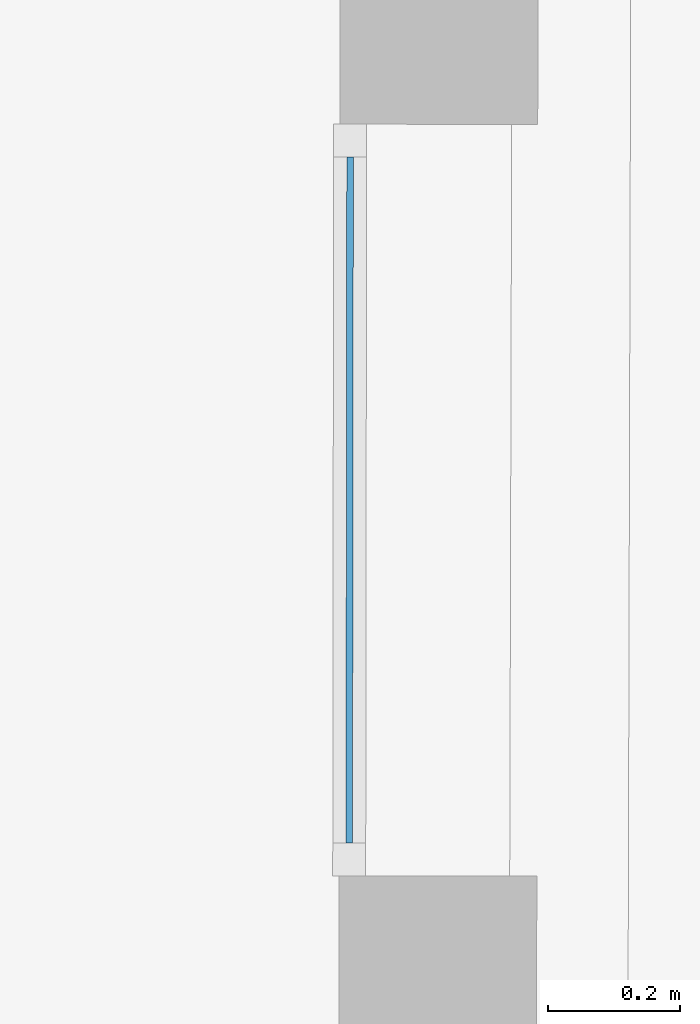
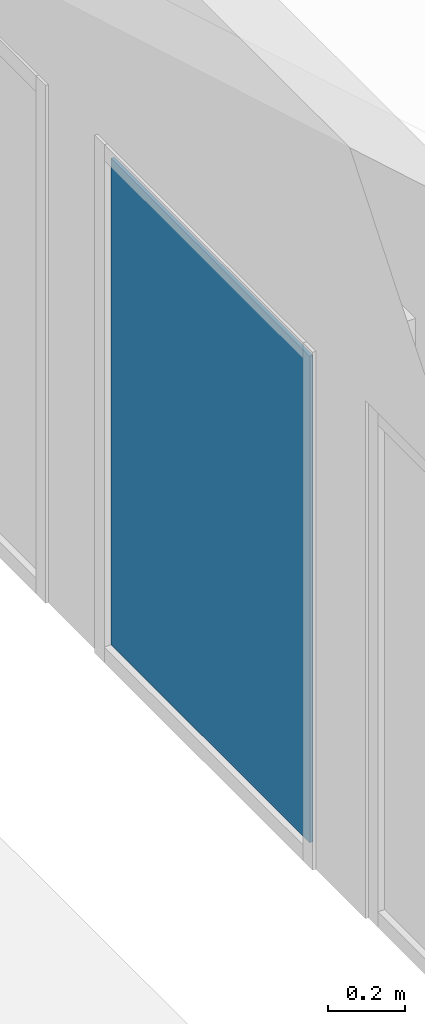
# One storey, part 19 of 26: 1 plate, 1 element without a shape of its own.
"""IFC2X3 building model written with IfcOpenShell, lengths in metres."""

from ifc_helpers import new_model, entity, si_unit, converted_unit, derived_unit, direction, frame, frame_2d, origin, place, context, subcontext, project, spatial, rectangle, extrude, source, transform, mapped, material, layer, layer_set, type_object, type_shapes, element, aggregate, save


model = new_model("IFC2X3")

# Units and contexts
model_context = context("Model", 3, precision=1e-05, world=origin(), true_north=direction((6.123233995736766e-17, 1.0)))
body_context = subcontext(model_context, "Body", "Model", "MODEL_VIEW")
ifc_project = project(units=[si_unit("LENGTHUNIT", "METRE"), si_unit("AREAUNIT", "SQUARE_METRE"), converted_unit("PLANEANGLEUNIT", "DEGREE", entity("IfcPlaneAngleMeasure", 0.017453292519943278), si_unit("PLANEANGLEUNIT", "RADIAN"), dimensions=[0, 0, 0, 0, 0, 0, 0]), derived_unit("THERMALTRANSMITTANCEUNIT", [(si_unit("MASSUNIT", "GRAM", prefix="KILO"), 1), (si_unit("THERMODYNAMICTEMPERATUREUNIT", "KELVIN"), -1), (si_unit("TIMEUNIT", "SECOND"), -3)])], contexts=[model_context])

# Site, building, storey
site_placement = place(None, frame((1253.6752467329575, 2072.143113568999, 91.49999999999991), z_axis=(0.0, 0.0, 1.0), x_axis=(0.7237211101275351, 0.6900925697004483, 0.0)))
site = spatial("IfcSite", under=ifc_project, at=site_placement, Name="Surface", CompositionType="ELEMENT")
building_placement = place(site_placement, origin())
building = spatial("IfcBuilding", under=site, at=building_placement, CompositionType="ELEMENT")
storey_placement = place(building_placement, frame((0.0, 0.0, 7.0)))
storey = spatial("IfcBuildingStorey", under=building, at=storey_placement, Name="2-R+2", CompositionType="ELEMENT", Elevation=6.999999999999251)

# Curtain wall, plate
curtain_wall_type = type_object("IfcCurtainWallType", Name="Mur-rideau:Menuiserie Ext 1F+1OB VERTIC", PredefinedType="NOTDEFINED")
curtain_wall_placement = place(storey_placement, frame((0.0, 0.0, -7.0)))
curtain_wall = element("IfcCurtainWall", 1, at=curtain_wall_placement, inside=storey, type_object=curtain_wall_type, Name="Mur-rideau:Menuiserie Ext 1F+1OB VERTIC", ObjectType="Mur-rideau:Menuiserie Ext 1F+1OB VERTIC")
ifc_material = material(Name="Verre")
ifc_layer = layer(ifc_material, 0.01)
ifc_layer_set = layer_set([ifc_layer], Name="Panneau système:Vitré")
plate_type = type_object("IfcPlateType", Name="Panneau système:Vitré", PredefinedType="CURTAIN_PANEL", material=ifc_layer_set)
shared_shape = source(origin(), body_context, "Body", "SweptSolid", [
    extrude(rectangle(XDim=0.01, YDim=1.0399999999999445, at=frame_2d((0.0, 1.4988010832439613e-15), x_axis=(1.0, 0.0))), frame((0.0, 0.0, 0.0), z_axis=(0.0, 0.0, 1.0), x_axis=(0.0, 1.0, 0.0)), (0.0, 0.0, 1.0), 1.5499999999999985),
])
type_shapes(plate_type, [shared_shape])
plate_placement = place(curtain_wall_placement, frame((191.7648958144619, -16.208465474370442, 7.950000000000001), z_axis=(0.0, 0.0, 1.0), x_axis=(0.6909838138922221, 0.7228702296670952, 0.0)))
plate = element("IfcPlate", 2, at=plate_placement, type_object=plate_type, material=ifc_material, Name="Panneau système:Vitré", ObjectType="Panneau système:Vitré", context=body_context, shape_type="MappedRepresentation", body=[
    mapped(shared_shape, transform((0.0, 0.0, 0.0), scale=1.0)),
])
aggregate(curtain_wall, [plate])

save(model, "model.ifc")
